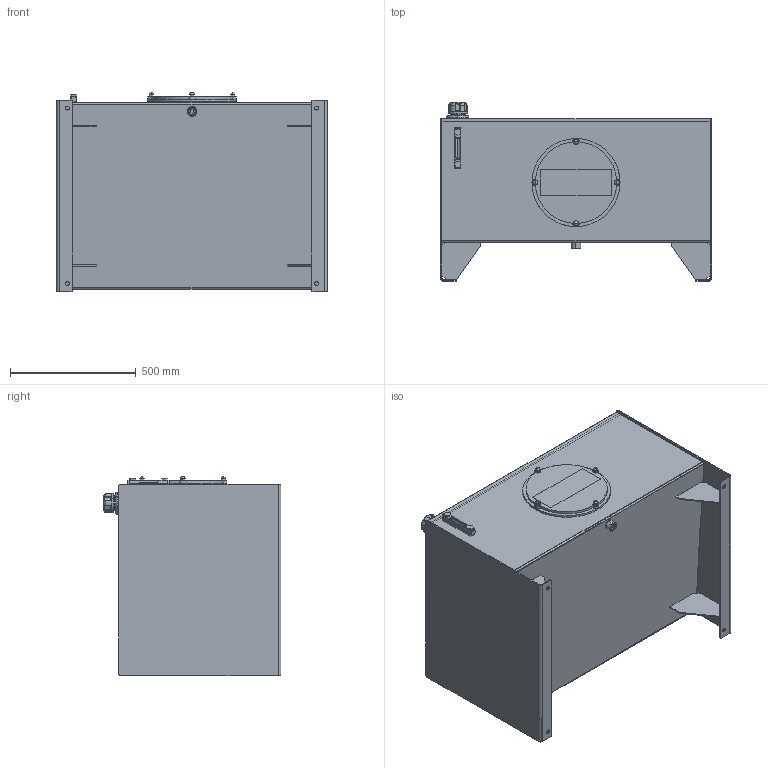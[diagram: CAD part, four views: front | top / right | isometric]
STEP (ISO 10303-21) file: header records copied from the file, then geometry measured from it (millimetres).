
FILE_DESCRIPTION (( 'STEP AP214' ), '1' );
FILE_NAME ('RDIN080-AFA.STEP', '2021-10-18T13:44:42', ( 'Windows User' ), ( '' ), 'SwSTEP 2.0', 'SolidWorks 2020', '' );
FILE_SCHEMA (( 'AUTOMOTIVE_DESIGN' ));
Length unit declared in the file: inch
Products named in the file (24): WFZM010; BHS8100-15350; FB-F008_FB-F-008; RDIN080-AFA-GUSSET1; RHJ-PLUG-016; RDIN080-AFA-LEND; NAC100-15-Z; RHJ-PLUG-200; RDIN080-AFA-BODY_RJIC020-BODY; QSTSBUR00080008; REC-M350K; FB-C-H_FB-H008W; PLLG-05T; RDIN080-AFA-REND; RDIN080-AFA-GUSSET2; NHP50016-20H__.50-20_NUT_95505A615; 8162-008-2_4534K45; RDIN080-AFA; REC-M350C-4; FB-S-W; Weld Riser; FB-H008W; RDIN080-AFA-TOP; S12
Assembly tree (32 placements, depth 3):
  RHJ-PLUG-016
  NAC100-15-Z
  RHJ-PLUG-200
  RDIN080-AFA
    RDIN080-AFA-BODY_RJIC020-BODY
    RDIN080-AFA-LEND
    RDIN080-AFA-REND
    RDIN080-AFA-TOP
    Weld Riser
    FB-H008W
      FB-F008_FB-F-008
      FB-S-W
      FB-C-H_FB-H008W
    BHS8100-15350  x4
    PLLG-05T
    REC-M350K
      REC-M350C-4
      WFZM010  x4
    S12
    8162-008-2_4534K45
    RDIN080-AFA-GUSSET1  x2
    RDIN080-AFA-GUSSET2  x2
    QSTSBUR00080008  x4
    NHP50016-20H__.50-20_NUT_95505A615  x2
Bounding box: 1076.31 x 707.64 x 792.72 mm (x, y, z)
Volume: 19360268.8 mm3; surface area: 7883097.3 mm2
Topology: 37 solids, 37 shells, 1118 faces, 2604 edges, 1558 vertices
Faces by surface type: plane 393, cylinder 363, cone 124, torus 102, bspline 88, sphere 48
Entity records: 34292 total; most frequent: CARTESIAN_POINT 9674, DIRECTION 5024, ORIENTED_EDGE 4644, EDGE_CURVE 2322, AXIS2_PLACEMENT_3D 2016, VERTEX_POINT 1394, EDGE_LOOP 1122, CIRCLE 1070
